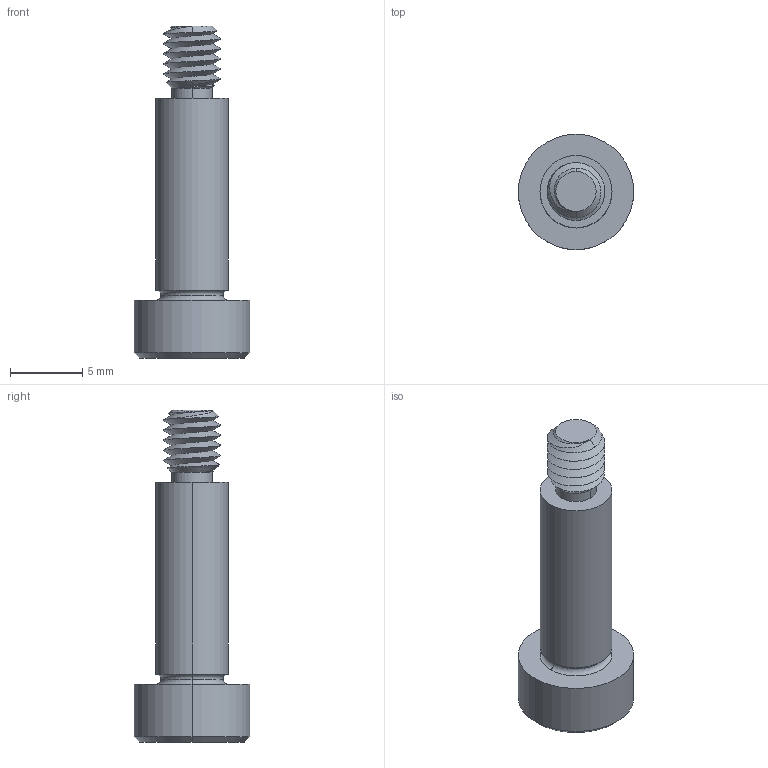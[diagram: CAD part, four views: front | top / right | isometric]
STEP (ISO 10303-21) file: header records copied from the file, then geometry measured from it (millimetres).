
FILE_DESCRIPTION (( 'STEP AP203' ), '1' );
FILE_NAME ('P0130.050-014-B2.step', '2021-11-09T21:14:21', ( '' ), ( '' ), 'SwSTEP 2.0', 'SolidWorks 2019', '' );
FILE_SCHEMA (( 'CONFIG_CONTROL_DESIGN' ));
Length unit declared in the file: millimetre
Products named in the file (1): P0130.050-014-B2
Bounding box: 8 x 8 x 23 mm (x, y, z)
Volume: 499.1 mm3; surface area: 535.4 mm2
Topology: 1 solids, 1 shells, 53 faces, 121 edges, 71 vertices
Faces by surface type: cylinder 16, plane 16, cone 15, torus 4, bspline 2
Entity records: 2151 total; most frequent: CARTESIAN_POINT 968, ORIENTED_EDGE 238, DIRECTION 226, EDGE_CURVE 119, AXIS2_PLACEMENT_3D 92, VERTEX_POINT 71, EDGE_LOOP 56, ADVANCED_FACE 53
